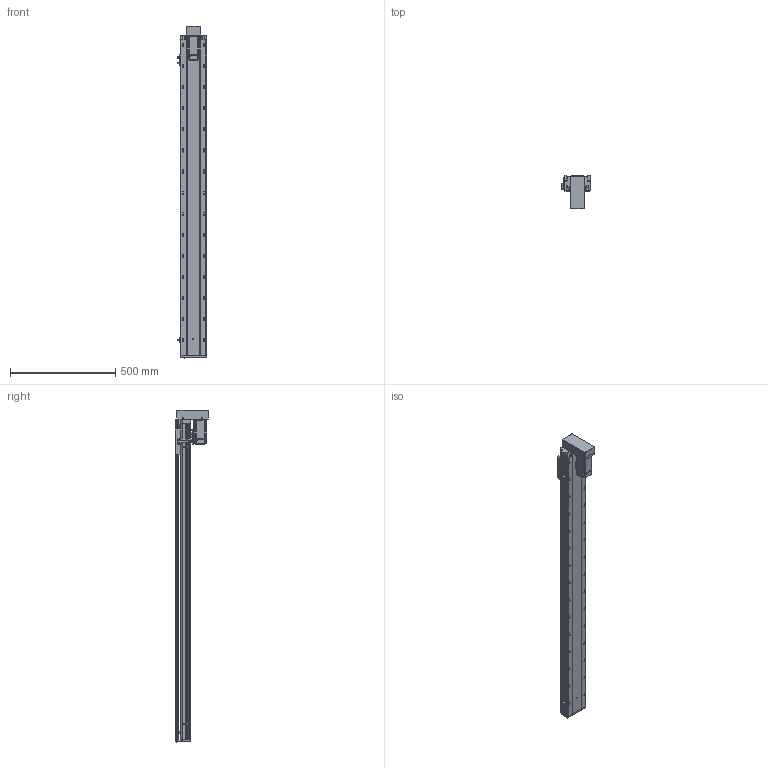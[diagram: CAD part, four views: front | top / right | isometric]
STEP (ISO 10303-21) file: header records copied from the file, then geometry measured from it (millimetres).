
FILE_DESCRIPTION (( 'STEP AP203' ), '1' );
FILE_NAME ('RY120-L2020-1000-BK.SLDASM_1300.step', '2021-03-12T07:20:43', ( '盈信电脑' ), ( '东莞市道滘镇水果街19号' ), 'SwSTEP 2.0', 'SolidWorks 2012', '' );
FILE_SCHEMA (( 'CONFIG_CONTROL_DESIGN' ));
Products named in the file (24): RY120-L2020-1000-BK.SLDASM_1300; RY120-400W萇儂傷-BK; RY80肮祭湍覃踡啣; RY120狟殏萇儂欶; RY120下折折电机安装板; 同步轮3M34齿宽15单边凸台; 侂狟400W侜督萇儂; 14; RY80肮祭湍芢雄輸; 13; 11; 12; 10; 16; RY120转拆电端丝杆支撑座(20丝杆，7002轴承); 15; 覜茼ん672; 滅袉蝶18-24; RY120外置感应片(140共用）; 滅袉蝶18-10; RY120臏賑輸(20蹟譫); RY120-1000-BK蛌殏倰第菁釱_1300; RY120-1000-BK蛌殏倰第奻裔啣_1300; RY120綴裔啣
Assembly tree (27 placements, depth 4):
  RY120-L2020-1000-BK.SLDASM_1300
    RY120-1000-BK蛌殏倰第菁釱_1300
    RY120-1000-BK蛌殏倰第奻裔啣_1300
    RY120臏賑輸(20蹟譫)
    RY120綴裔啣
    覜茼ん672  x3
    滅袉蝶18-10
    滅袉蝶18-24  x2
    RY120外置感应片(140共用）
    RY120转拆电端丝杆支撑座(20丝杆，7002轴承)
    RY120-400W萇儂傷-BK
      侂狟400W侜督萇儂
        15
        16
        10
        11
        12
        13
        14
      RY80肮祭湍芢雄輸  x2
      同步轮3M34齿宽15单边凸台
      RY80肮祭湍覃踡啣
      RY120狟殏萇儂欶
      RY120下折折电机安装板
Bounding box: 135.7 x 159.5 x 1575 mm (x, y, z)
Volume: 4228710.2 mm3; surface area: 1598112 mm2
Topology: 26 solids, 26 shells, 3853 faces, 10521 edges, 6725 vertices
Faces by surface type: plane 1791, cylinder 1624, cone 307, bspline 131
Entity records: 130108 total; most frequent: CARTESIAN_POINT 36398, ORIENTED_EDGE 19518, DIRECTION 18340, EDGE_CURVE 9759, AXIS2_PLACEMENT_3D 6356, VERTEX_POINT 6349, VECTOR 5628, LINE 5628
